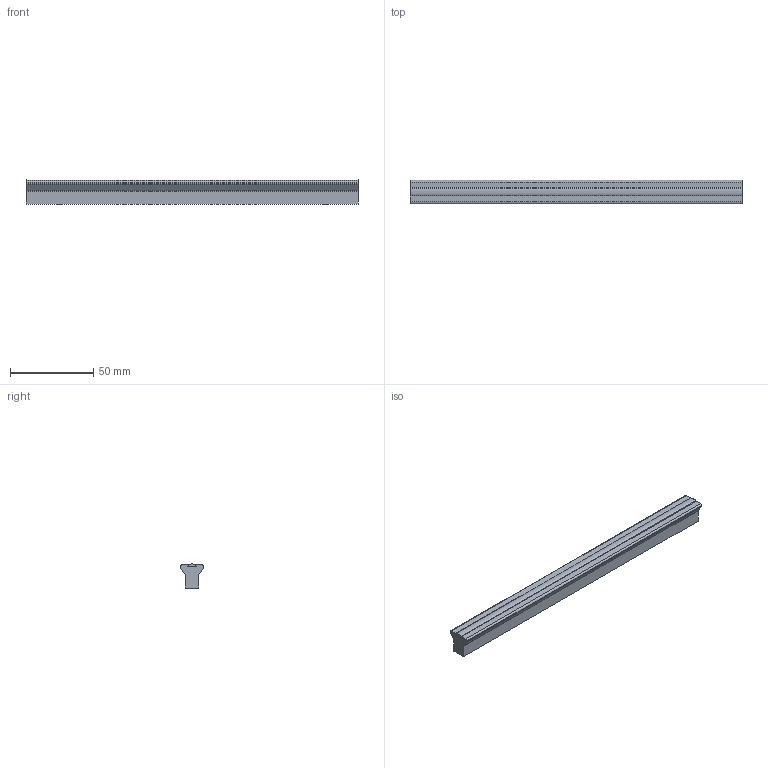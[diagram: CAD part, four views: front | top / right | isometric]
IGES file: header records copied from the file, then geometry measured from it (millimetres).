
Start section: Comment
Global section: file name: 8238.igs; native system: Parasolid(12.0); preprocessor: Pariges 4.4; author: Author; organization: Title; date: 20200903.172812; units: millimetre
Bounding box: 200 x 14 x 14.53 mm (x, y, z)
Surface area: 13396.9 mm2 (no closed solid volume)
Topology: 0 solids, 0 shells, 34 faces, 250 edges, 250 vertices
Faces by surface type: extrusion 21, revolution 13
